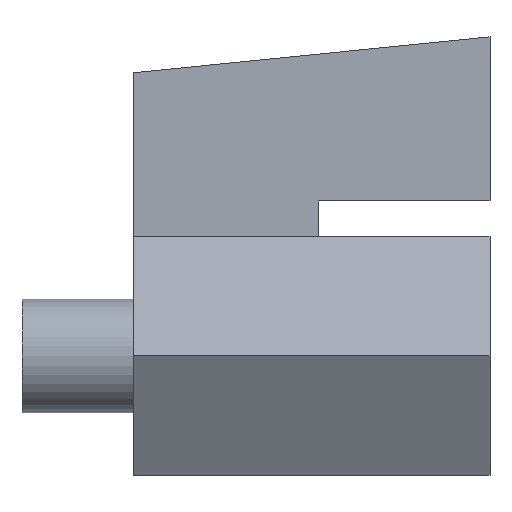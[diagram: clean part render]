
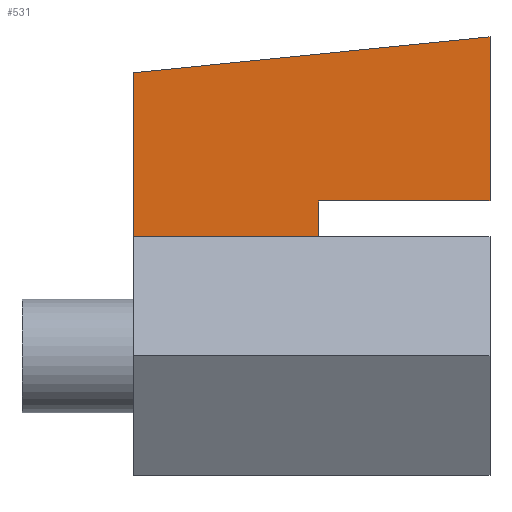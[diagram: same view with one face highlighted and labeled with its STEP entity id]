
A CAD part, front view. The second image highlights one B-rep face of the part: STEP entity #531.
In plain terms, the highlighted planar face has unit normal (0, -1, 0).
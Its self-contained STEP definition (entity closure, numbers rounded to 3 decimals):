
#67 = PLANE('',#68);
#68 = AXIS2_PLACEMENT_3D('',#69,#70,#71);
#69 = CARTESIAN_POINT('',(-0.586,0.164,0.991));
#70 = DIRECTION('',(-0.1,0.,0.995));
#71 = DIRECTION('',(-0.995,0.,-0.1));
#188 = EDGE_CURVE('',#189,#191,#193,.T.);
#189 = VERTEX_POINT('',#190);
#190 = CARTESIAN_POINT('',(0.,-0.164,0.51));
#191 = VERTEX_POINT('',#192);
#192 = CARTESIAN_POINT('',(-0.564,-0.164,0.51));
#193 = SURFACE_CURVE('',#194,(#198,#210),.PCURVE_S1.);
#194 = LINE('',#195,#196);
#195 = CARTESIAN_POINT('',(0.,-0.164,0.51));
#196 = VECTOR('',#197,1.);
#197 = DIRECTION('',(-1.,0.,0.));
#198 = PCURVE('',#199,#204);
#199 = PLANE('',#200);
#200 = AXIS2_PLACEMENT_3D('',#201,#202,#203);
#201 = CARTESIAN_POINT('',(-0.282,0.164,0.51));
#202 = DIRECTION('',(0.,0.,-1.));
#203 = DIRECTION('',(1.,0.,0.));
#204 = DEFINITIONAL_REPRESENTATION('',(#205),#209);
#205 = LINE('',#206,#207);
#206 = CARTESIAN_POINT('',(0.282,0.328));
#207 = VECTOR('',#208,1.);
#208 = DIRECTION('',(-1.,0.));
#209 = ( GEOMETRIC_REPRESENTATION_CONTEXT(2) 
PARAMETRIC_REPRESENTATION_CONTEXT() REPRESENTATION_CONTEXT('2D SPACE',''
  ) );
#210 = PCURVE('',#211,#216);
#211 = PLANE('',#212);
#212 = AXIS2_PLACEMENT_3D('',#213,#214,#215);
#213 = CARTESIAN_POINT('',(-0.585,-0.164,0.712));
#214 = DIRECTION('',(0.,1.,0.));
#215 = DIRECTION('',(0.,-0.,1.));
#216 = DEFINITIONAL_REPRESENTATION('',(#217),#221);
#217 = LINE('',#218,#219);
#218 = CARTESIAN_POINT('',(-0.202,0.585));
#219 = VECTOR('',#220,1.);
#220 = DIRECTION('',(0.,-1.));
#221 = ( GEOMETRIC_REPRESENTATION_CONTEXT(2) 
PARAMETRIC_REPRESENTATION_CONTEXT() REPRESENTATION_CONTEXT('2D SPACE',''
  ) );
#239 = PLANE('',#240);
#240 = AXIS2_PLACEMENT_3D('',#241,#242,#243);
#241 = CARTESIAN_POINT('',(-0.564,0.164,0.451));
#242 = DIRECTION('',(1.,0.,0.));
#243 = DIRECTION('',(0.,0.,1.));
#293 = PLANE('',#294);
#294 = AXIS2_PLACEMENT_3D('',#295,#296,#297);
#295 = CARTESIAN_POINT('',(0.,0.164,0.78));
#296 = DIRECTION('',(1.,0.,0.));
#297 = DIRECTION('',(0.,0.,1.));
#308 = EDGE_CURVE('',#191,#309,#311,.T.);
#309 = VERTEX_POINT('',#310);
#310 = CARTESIAN_POINT('',(-0.564,-0.164,0.392));
#311 = SURFACE_CURVE('',#312,(#316,#323),.PCURVE_S1.);
#312 = LINE('',#313,#314);
#313 = CARTESIAN_POINT('',(-0.564,-0.164,0.51));
#314 = VECTOR('',#315,1.);
#315 = DIRECTION('',(0.,0.,-1.));
#316 = PCURVE('',#239,#317);
#317 = DEFINITIONAL_REPRESENTATION('',(#318),#322);
#318 = LINE('',#319,#320);
#319 = CARTESIAN_POINT('',(0.059,0.328));
#320 = VECTOR('',#321,1.);
#321 = DIRECTION('',(-1.,0.));
#322 = ( GEOMETRIC_REPRESENTATION_CONTEXT(2) 
PARAMETRIC_REPRESENTATION_CONTEXT() REPRESENTATION_CONTEXT('2D SPACE',''
  ) );
#323 = PCURVE('',#211,#324);
#324 = DEFINITIONAL_REPRESENTATION('',(#325),#329);
#325 = LINE('',#326,#327);
#326 = CARTESIAN_POINT('',(-0.202,0.021));
#327 = VECTOR('',#328,1.);
#328 = DIRECTION('',(-1.,0.));
#329 = ( GEOMETRIC_REPRESENTATION_CONTEXT(2) 
PARAMETRIC_REPRESENTATION_CONTEXT() REPRESENTATION_CONTEXT('2D SPACE',''
  ) );
#347 = PLANE('',#348);
#348 = AXIS2_PLACEMENT_3D('',#349,#350,#351);
#349 = CARTESIAN_POINT('',(0.,0.,0.392));
#350 = DIRECTION('',(0.,0.,1.));
#351 = DIRECTION('',(0.,1.,0.));
#388 = EDGE_CURVE('',#389,#391,#393,.T.);
#389 = VERTEX_POINT('',#390);
#390 = CARTESIAN_POINT('',(-1.172,-0.164,0.932));
#391 = VERTEX_POINT('',#392);
#392 = CARTESIAN_POINT('',(0.,-0.164,1.05));
#393 = SURFACE_CURVE('',#394,(#398,#405),.PCURVE_S1.);
#394 = LINE('',#395,#396);
#395 = CARTESIAN_POINT('',(-1.172,-0.164,0.932));
#396 = VECTOR('',#397,1.);
#397 = DIRECTION('',(0.995,0.,0.1));
#398 = PCURVE('',#67,#399);
#399 = DEFINITIONAL_REPRESENTATION('',(#400),#404);
#400 = LINE('',#401,#402);
#401 = CARTESIAN_POINT('',(0.589,0.328));
#402 = VECTOR('',#403,1.);
#403 = DIRECTION('',(-1.,0.));
#404 = ( GEOMETRIC_REPRESENTATION_CONTEXT(2) 
PARAMETRIC_REPRESENTATION_CONTEXT() REPRESENTATION_CONTEXT('2D SPACE',''
  ) );
#405 = PCURVE('',#211,#406);
#406 = DEFINITIONAL_REPRESENTATION('',(#407),#411);
#407 = LINE('',#408,#409);
#408 = CARTESIAN_POINT('',(0.22,-0.587));
#409 = VECTOR('',#410,1.);
#410 = DIRECTION('',(0.1,0.995));
#411 = ( GEOMETRIC_REPRESENTATION_CONTEXT(2) 
PARAMETRIC_REPRESENTATION_CONTEXT() REPRESENTATION_CONTEXT('2D SPACE',''
  ) );
#473 = PLANE('',#474);
#474 = AXIS2_PLACEMENT_3D('',#475,#476,#477);
#475 = CARTESIAN_POINT('',(-1.172,0.,0.
    ));
#476 = DIRECTION('',(-1.,0.,0.));
#477 = DIRECTION('',(0.,0.,1.));
#488 = EDGE_CURVE('',#391,#189,#489,.T.);
#489 = SURFACE_CURVE('',#490,(#494,#501),.PCURVE_S1.);
#490 = LINE('',#491,#492);
#491 = CARTESIAN_POINT('',(0.,-0.164,1.05));
#492 = VECTOR('',#493,1.);
#493 = DIRECTION('',(0.,0.,-1.));
#494 = PCURVE('',#293,#495);
#495 = DEFINITIONAL_REPRESENTATION('',(#496),#500);
#496 = LINE('',#497,#498);
#497 = CARTESIAN_POINT('',(0.27,0.328));
#498 = VECTOR('',#499,1.);
#499 = DIRECTION('',(-1.,0.));
#500 = ( GEOMETRIC_REPRESENTATION_CONTEXT(2) 
PARAMETRIC_REPRESENTATION_CONTEXT() REPRESENTATION_CONTEXT('2D SPACE',''
  ) );
#501 = PCURVE('',#211,#502);
#502 = DEFINITIONAL_REPRESENTATION('',(#503),#507);
#503 = LINE('',#504,#505);
#504 = CARTESIAN_POINT('',(0.338,0.585));
#505 = VECTOR('',#506,1.);
#506 = DIRECTION('',(-1.,0.));
#507 = ( GEOMETRIC_REPRESENTATION_CONTEXT(2) 
PARAMETRIC_REPRESENTATION_CONTEXT() REPRESENTATION_CONTEXT('2D SPACE',''
  ) );
#531 = ADVANCED_FACE('',(#532),#211,.F.);
#532 = FACE_BOUND('',#533,.T.);
#533 = EDGE_LOOP('',(#534,#535,#536,#537,#560,#581));
#534 = ORIENTED_EDGE('',*,*,#188,.F.);
#535 = ORIENTED_EDGE('',*,*,#488,.F.);
#536 = ORIENTED_EDGE('',*,*,#388,.F.);
#537 = ORIENTED_EDGE('',*,*,#538,.F.);
#538 = EDGE_CURVE('',#539,#389,#541,.T.);
#539 = VERTEX_POINT('',#540);
#540 = CARTESIAN_POINT('',(-1.172,-0.164,0.392));
#541 = SURFACE_CURVE('',#542,(#546,#553),.PCURVE_S1.);
#542 = LINE('',#543,#544);
#543 = CARTESIAN_POINT('',(-1.172,-0.164,0.392));
#544 = VECTOR('',#545,1.);
#545 = DIRECTION('',(0.,0.,1.));
#546 = PCURVE('',#211,#547);
#547 = DEFINITIONAL_REPRESENTATION('',(#548),#552);
#548 = LINE('',#549,#550);
#549 = CARTESIAN_POINT('',(-0.32,-0.587));
#550 = VECTOR('',#551,1.);
#551 = DIRECTION('',(1.,0.));
#552 = ( GEOMETRIC_REPRESENTATION_CONTEXT(2) 
PARAMETRIC_REPRESENTATION_CONTEXT() REPRESENTATION_CONTEXT('2D SPACE',''
  ) );
#553 = PCURVE('',#473,#554);
#554 = DEFINITIONAL_REPRESENTATION('',(#555),#559);
#555 = LINE('',#556,#557);
#556 = CARTESIAN_POINT('',(0.392,-0.164));
#557 = VECTOR('',#558,1.);
#558 = DIRECTION('',(1.,0.));
#559 = ( GEOMETRIC_REPRESENTATION_CONTEXT(2) 
PARAMETRIC_REPRESENTATION_CONTEXT() REPRESENTATION_CONTEXT('2D SPACE',''
  ) );
#560 = ORIENTED_EDGE('',*,*,#561,.F.);
#561 = EDGE_CURVE('',#309,#539,#562,.T.);
#562 = SURFACE_CURVE('',#563,(#567,#574),.PCURVE_S1.);
#563 = LINE('',#564,#565);
#564 = CARTESIAN_POINT('',(-0.293,-0.164,0.392));
#565 = VECTOR('',#566,1.);
#566 = DIRECTION('',(-1.,0.,0.));
#567 = PCURVE('',#211,#568);
#568 = DEFINITIONAL_REPRESENTATION('',(#569),#573);
#569 = LINE('',#570,#571);
#570 = CARTESIAN_POINT('',(-0.32,0.293));
#571 = VECTOR('',#572,1.);
#572 = DIRECTION('',(0.,-1.));
#573 = ( GEOMETRIC_REPRESENTATION_CONTEXT(2) 
PARAMETRIC_REPRESENTATION_CONTEXT() REPRESENTATION_CONTEXT('2D SPACE',''
  ) );
#574 = PCURVE('',#347,#575);
#575 = DEFINITIONAL_REPRESENTATION('',(#576),#580);
#576 = LINE('',#577,#578);
#577 = CARTESIAN_POINT('',(-0.164,0.293));
#578 = VECTOR('',#579,1.);
#579 = DIRECTION('',(0.,1.));
#580 = ( GEOMETRIC_REPRESENTATION_CONTEXT(2) 
PARAMETRIC_REPRESENTATION_CONTEXT() REPRESENTATION_CONTEXT('2D SPACE',''
  ) );
#581 = ORIENTED_EDGE('',*,*,#308,.F.);
